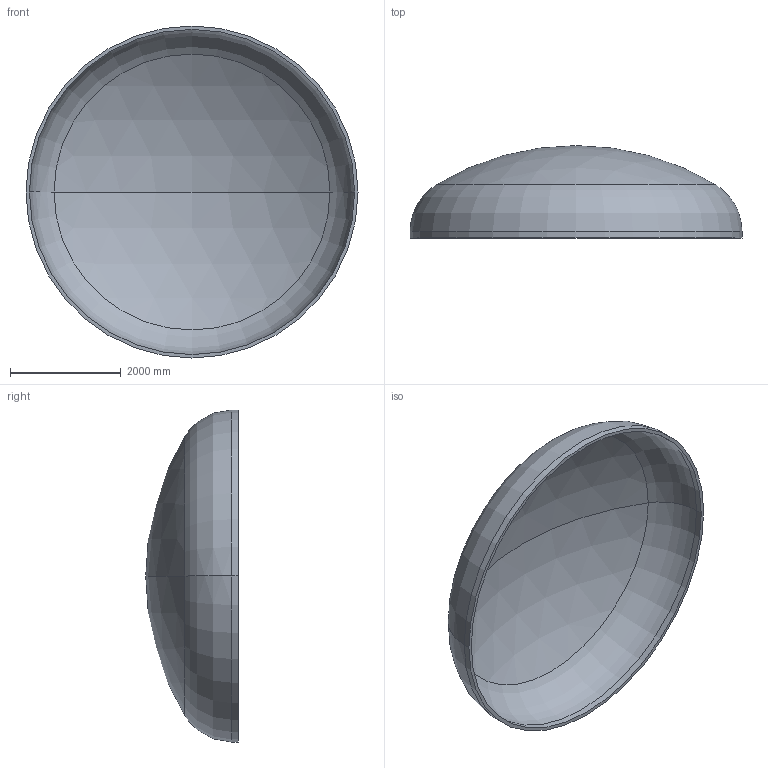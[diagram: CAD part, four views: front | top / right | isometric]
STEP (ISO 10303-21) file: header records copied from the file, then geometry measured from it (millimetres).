
FILE_DESCRIPTION (( 'STEP AP203' ), '1' );
FILE_NAME ('DIN 28013 Korbbogenform_-_Boden DIN 28013 - 6000 x 120 - I - s=62.step', '2016-07-04T10:37:43', ( '' ), ( '' ), 'SwSTEP 2.0', 'SolidWorks 2013', '' );
FILE_SCHEMA (( 'CONFIG_CONTROL_DESIGN' ));
Length unit declared in the file: millimetre
Products named in the file (1): DIN 28013 Korbbogenform_-_Boden DIN 28013 - 6000 x 120 - I - s=62
Bounding box: 6000 x 1670.89 x 6000 mm (x, y, z)
Volume: 2534239205.8 mm3; surface area: 82914267.8 mm2
Topology: 1 solids, 1 shells, 13 faces, 24 edges, 14 vertices
Faces by surface type: torus 4, cylinder 4, sphere 4, plane 1
Entity records: 407 total; most frequent: DIRECTION 72, CARTESIAN_POINT 52, ORIENTED_EDGE 48, AXIS2_PLACEMENT_3D 34, EDGE_CURVE 24, CIRCLE 20, EDGE_LOOP 14, VERTEX_POINT 14
